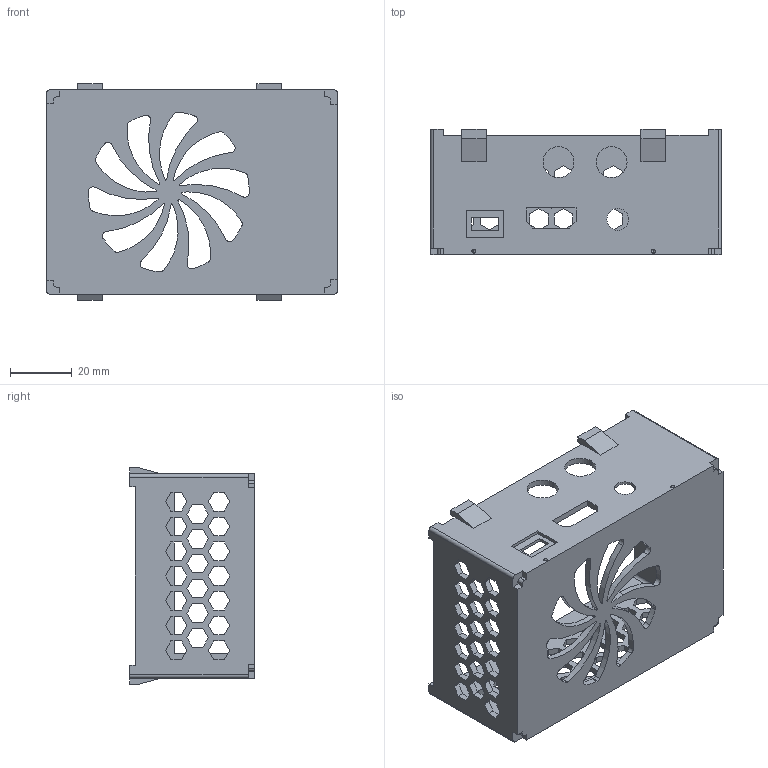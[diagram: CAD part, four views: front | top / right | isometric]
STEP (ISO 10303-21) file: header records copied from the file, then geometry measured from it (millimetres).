
FILE_DESCRIPTION (( 'STEP AP214' ), '1' );
FILE_NAME ('RPI3-DAC-case.STEP', '2019-09-17T19:17:08', ( '' ), ( '' ), 'SwSTEP 2.0', 'SolidWorks 2016', '' );
FILE_SCHEMA (( 'AUTOMOTIVE_DESIGN' ));
Length unit declared in the file: millimetre
Products named in the file (1): RPI3-DAC-case
Bounding box: 94 x 40.4 x 70 mm (x, y, z)
Volume: 29826.4 mm3; surface area: 31820 mm2
Topology: 1 solids, 1 shells, 762 faces, 2205 edges, 1462 vertices
Faces by surface type: plane 556, cylinder 120, bspline 70, sphere 16
Entity records: 28149 total; most frequent: CARTESIAN_POINT 8180, ORIENTED_EDGE 4346, DIRECTION 3693, EDGE_CURVE 2173, VECTOR 1759, LINE 1759, VERTEX_POINT 1446, AXIS2_PLACEMENT_3D 967
